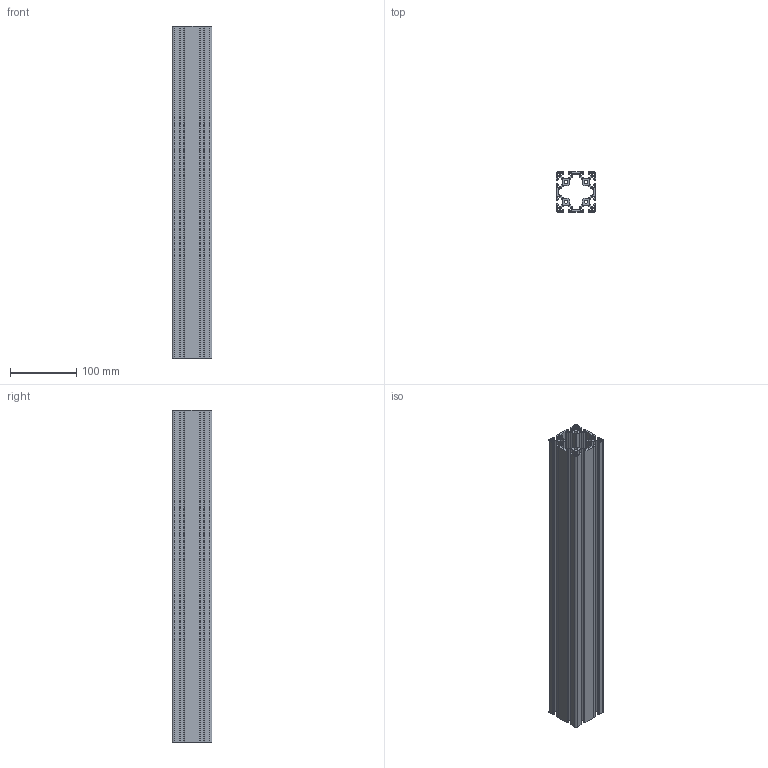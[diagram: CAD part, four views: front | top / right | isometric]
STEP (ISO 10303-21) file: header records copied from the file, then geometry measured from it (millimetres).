
FILE_DESCRIPTION (( 'STEP AP203' ), '1' );
FILE_NAME ('PP3090-500-Rollco.step', '2026-05-04T07:39:26', ( '' ), ( '' ), 'SwSTEP 2.0', 'SolidWorks 2014', '' );
FILE_SCHEMA (( 'CONFIG_CONTROL_DESIGN' ));
Length unit declared in the file: millimetre
Products named in the file (1): PP3090-500-Rollco
Bounding box: 60 x 60 x 500 mm (x, y, z)
Volume: 505301.4 mm3; surface area: 419776 mm2
Topology: 1 solids, 1 shells, 338 faces, 1008 edges, 672 vertices
Faces by surface type: cylinder 172, plane 166
Entity records: 11569 total; most frequent: DIRECTION 2030, CARTESIAN_POINT 2019, ORIENTED_EDGE 2016, EDGE_CURVE 1008, AXIS2_PLACEMENT_3D 683, VERTEX_POINT 672, VECTOR 664, LINE 664
